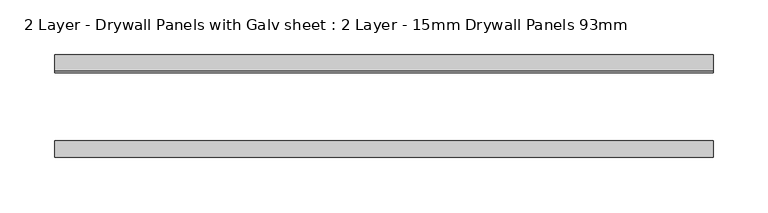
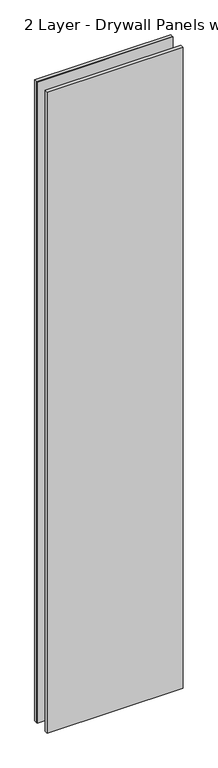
"""IFC4 building model written with IfcOpenShell, lengths in millimetres: plate geometry, 2 Layer - Drywall Panels with Galv sheet : 2 Layer - 15mm Drywall Panels 93mm."""

import ifcopenshell
import ifcopenshell.guid

model = None  # the IFC model being written
_history = None  # IfcOwnerHistory: only IFC2X3 demands one
_inside = {}  # id of a spatial element -> (the spatial element, [elements in it])
_under = {}  # id of a project, library or spatial element -> (it, [spatial elements below it])
_declared = {}  # id of a project -> (the project, [libraries it declares])
_typed = {}  # id of a type object -> (the type object, [elements of that type])
_made_of = {}  # id of a material, layer set ... -> (it, [elements and type objects made of it])


def new_model(schema):
    """Start an empty IFC model of exactly this schema.

    Asked for "IFC4X3", IfcOpenShell would pick the latest addendum, in which some entities
    have other attributes; the version numbers below select the first issue.
    IFC2X3 requires an IfcOwnerHistory on every rooted entity: one is made here for all.
    """
    global model, _history
    if schema == "IFC4X3":
        model = ifcopenshell.file(schema_version=(4, 3, 0, 0))
    else:
        model = ifcopenshell.file(schema=schema)
    _inside.clear()
    _under.clear()
    _declared.clear()
    _typed.clear()
    _made_of.clear()
    _history = None
    if model.schema == "IFC2X3":
        org = make("IfcOrganization", Name="unknown")
        user = make(
            "IfcPersonAndOrganization",
            ThePerson=make("IfcPerson", FamilyName="unknown"),
            TheOrganization=org,
        )
        app = make(
            "IfcApplication",
            ApplicationDeveloper=org,
            Version="unknown",
            ApplicationFullName="unknown",
            ApplicationIdentifier="unknown",
        )
        _history = make(
            "IfcOwnerHistory",
            OwningUser=user,
            OwningApplication=app,
            ChangeAction="ADDED",
            CreationDate=0,
        )
    return model


def make(cls, **values):
    """One entity of the class cls with the attributes given. An attribute that is None is left unset."""
    return model.create_entity(
        cls, **{name: value for name, value in values.items() if value is not None}
    )


def rooted(cls, **values):
    """An entity with a GlobalId (a new one), such as an element, a storey or a relation."""
    return make(cls, GlobalId=ifcopenshell.guid.new(), OwnerHistory=_history, **values)


def si_unit(unit_type, name, prefix=None):
    """IfcSIUnit, for example si_unit("LENGTHUNIT", "METRE", prefix="MILLI")."""
    return make("IfcSIUnit", UnitType=unit_type, Prefix=prefix, Name=name)


def assignment(units):
    """IfcUnitAssignment: the units of a project."""
    return None if units is None else make("IfcUnitAssignment", Units=units)


def point(xyz):
    """IfcCartesianPoint."""
    return None if xyz is None else make("IfcCartesianPoint", Coordinates=xyz)


def direction(xyz):
    """IfcDirection."""
    return None if xyz is None else make("IfcDirection", DirectionRatios=xyz)


def frame(location, z_axis=None, x_axis=None):
    """IfcAxis2Placement3D, a coordinate frame: its origin and axes. An axis left out is left unset."""
    return make(
        "IfcAxis2Placement3D",
        Location=point(location),
        Axis=direction(z_axis),
        RefDirection=direction(x_axis),
    )


def origin():
    """The frame at (0, 0, 0) with its axes left unset."""
    return frame((0.0, 0.0, 0.0))


def origin_with_axes():
    """The frame at (0, 0, 0) with the z axis (0, 0, 1) and the x axis (1, 0, 0) written out."""
    return frame((0.0, 0.0, 0.0), z_axis=(0.0, 0.0, 1.0), x_axis=(1.0, 0.0, 0.0))


def place(relative_to, where):
    """IfcLocalPlacement: puts the frame where relative to a parent placement (None: the world)."""
    return make(
        "IfcLocalPlacement", PlacementRelTo=relative_to, RelativePlacement=where
    )


def context(
    kind, dimensions, precision=None, world=None, true_north=None, identifier=None
):
    """IfcGeometricRepresentationContext, for example the 3D "Model" context."""
    return make(
        "IfcGeometricRepresentationContext",
        ContextIdentifier=identifier,
        ContextType=kind,
        CoordinateSpaceDimension=dimensions,
        Precision=precision,
        WorldCoordinateSystem=world,
        TrueNorth=true_north,
    )


def project(units=None, contexts=None):
    """IfcProject with its units and contexts."""
    return rooted(
        "IfcProject",
        Name="project",
        RepresentationContexts=contexts,
        UnitsInContext=assignment(units),
    )


def spatial(cls, under=None, at=None, **own):
    """A site, building, storey or space (cls), placed at a placement, below another one or the project."""
    s = rooted(cls, ObjectPlacement=at, **own)
    if under is not None:
        _under.setdefault(under.id(), (under, []))[1].append(s)
    return s


def polyline(points):
    """IfcPolyline through the points."""
    return make("IfcPolyline", Points=[point(p) for p in points])


def outline(outer, holes=None, kind="AREA"):
    """IfcArbitraryClosedProfileDef: a profile drawn as a closed curve; with holes, ...WithVoids."""
    if holes is None:
        return make("IfcArbitraryClosedProfileDef", ProfileType=kind, OuterCurve=outer)
    return make(
        "IfcArbitraryProfileDefWithVoids",
        ProfileType=kind,
        OuterCurve=outer,
        InnerCurves=holes,
    )


def extrude(swept, where, along, depth):
    """IfcExtrudedAreaSolid: the profile swept, set in the frame where, extruded along a direction by depth."""
    return make(
        "IfcExtrudedAreaSolid",
        SweptArea=swept,
        Position=where,
        ExtrudedDirection=direction(along),
        Depth=depth,
    )


def shape(context_of_items, identifier, shape_type, items):
    """IfcShapeRepresentation: the items that make up one representation, for example the "Body"."""
    return make(
        "IfcShapeRepresentation",
        ContextOfItems=context_of_items,
        RepresentationIdentifier=identifier,
        RepresentationType=shape_type,
        Items=items,
    )


def source(mapping_origin, context_of_items, identifier, shape_type, items):
    """IfcRepresentationMap: a shape defined once, which mapped items show again and again."""
    return make(
        "IfcRepresentationMap",
        MappingOrigin=mapping_origin,
        MappedRepresentation=shape(context_of_items, identifier, shape_type, items),
    )


def transform(
    local_origin,
    x_axis=None,
    y_axis=None,
    z_axis=None,
    scale=None,
    scale2=None,
    scale3=None,
    uniform=True,
):
    """IfcCartesianTransformationOperator3D, or its non-uniform kind. x_axis, y_axis, z_axis: its Axis1, 2, 3."""
    if uniform:
        return make(
            "IfcCartesianTransformationOperator3D",
            Axis1=direction(x_axis),
            Axis2=direction(y_axis),
            LocalOrigin=point(local_origin),
            Scale=scale,
            Axis3=direction(z_axis),
        )
    return make(
        "IfcCartesianTransformationOperator3DnonUniform",
        Axis1=direction(x_axis),
        Axis2=direction(y_axis),
        LocalOrigin=point(local_origin),
        Scale=scale,
        Axis3=direction(z_axis),
        Scale2=scale2,
        Scale3=scale3,
    )


def mapped(mapping_source, mapping_target):
    """IfcMappedItem: shows the shape of a source again, moved by a transform."""
    return make(
        "IfcMappedItem", MappingSource=mapping_source, MappingTarget=mapping_target
    )


def made_of(thing, what):
    """Note that an element or type object is made of a material, layer set ...; save() writes the relation."""
    if what is not None:
        _made_of.setdefault(what.id(), (what, []))[1].append(thing)
    return thing


def element(
    cls,
    number,
    at=None,
    inside=None,
    cuts=None,
    type_object=None,
    material=None,
    context=None,
    identifier="Body",
    shape_type=None,
    held_by="IfcProductDefinitionShape",
    body=None,
    shapes=None,
    **own,
):
    """One element of the class cls, such as IfcWall. Its Tag is "e" and its number.

    at: its placement. inside: the storey or other place that contains it. cuts: it is an
    opening in that element (IfcRelVoidsElement). A single representation is given by context,
    identifier, shape_type and body (its items); several are given by shapes. held_by: the class
    of the entity that holds the representations. save() writes the other relations.
    """
    e = rooted(cls, Tag="e%d" % number, ObjectPlacement=at, **own)
    if body is not None:
        shapes = [shape(context, identifier, shape_type, body)]
    if shapes is not None:
        e.Representation = make(held_by, Representations=shapes)
    if inside is not None:
        _inside.setdefault(inside.id(), (inside, []))[1].append(e)
    if cuts is not None:
        rooted(
            "IfcRelVoidsElement", RelatingBuildingElement=cuts, RelatedOpeningElement=e
        )
    if type_object is not None:
        _typed.setdefault(type_object.id(), (type_object, []))[1].append(e)
    return made_of(e, material)


def aggregate(whole, parts):
    """IfcRelAggregates: a whole, such as a stair, and the parts it consists of."""
    return rooted("IfcRelAggregates", RelatingObject=whole, RelatedObjects=parts)


def save(model, path):
    """Write the relations noted so far, then the file.

    IfcRelAggregates (storeys below a building ...), IfcRelContainedInSpatialStructure (elements
    in a storey), IfcRelDefinesByType, IfcRelAssociatesMaterial and IfcRelDeclares: one each for
    every whole, place, type object, material and project.
    """
    for whole, parts in _under.values():
        aggregate(whole, parts)
    for where, things in _inside.values():
        rooted(
            "IfcRelContainedInSpatialStructure",
            RelatedElements=things,
            RelatingStructure=where,
        )
    for kind, things in _typed.values():
        rooted("IfcRelDefinesByType", RelatedObjects=things, RelatingType=kind)
    for what, things in _made_of.values():
        rooted("IfcRelAssociatesMaterial", RelatedObjects=things, RelatingMaterial=what)
    for by, libraries in _declared.values():
        rooted("IfcRelDeclares", RelatingContext=by, RelatedDefinitions=libraries)
    model.write(path)


def plate_2_layer_drywall_panels_with_galv_sheet_2_layer_15mm_8fcf15e8(model_context):
    return source(origin(), model_context, "Body", "SweptSolid", [
        extrude(outline(polyline([(299.2000002, 31.5), (299.2000002, 30.5), (-299.2000002, 30.5), (-299.2000002, 31.5), (299.2000002, 31.5)])), origin_with_axes(), (0.0, 0.0, 1.0), 2979.4),
        extrude(outline(polyline([(299.2000002, 31.5), (-299.2000002, 31.5), (-299.2000002, 46.5), (299.2000002, 46.5), (299.2000002, 31.5)])), origin_with_axes(), (0.0, 0.0, 1.0), 2979.4),
        extrude(outline(polyline([(299.2000002, -31.5), (299.2000002, -46.5), (-299.2000002, -46.5), (-299.2000002, -31.5), (299.2000002, -31.5)])), origin_with_axes(), (0.0, 0.0, 1.0), 2979.4),
    ])


if __name__ == "__main__":
    model = new_model("IFC4")
    model_context = context("Model", 3, world=origin())
    ifc_project = project(units=[si_unit("LENGTHUNIT", "METRE", prefix="MILLI")], contexts=[model_context])
    site = spatial("IfcSite", under=ifc_project)
    building = spatial("IfcBuilding", under=site)
    placement = place(None, origin())
    plate_2_layer_drywall_panels_with_galv_sheet_2_layer_15mm_shape = plate_2_layer_drywall_panels_with_galv_sheet_2_layer_15mm_8fcf15e8(model_context)
    element("IfcPlate", 1, ObjectType="2 Layer - Drywall Panels with Galv sheet : 2 Layer - 15mm Drywall Panels 93mm", at=placement, inside=building, context=model_context, shape_type="MappedRepresentation", body=[
        mapped(plate_2_layer_drywall_panels_with_galv_sheet_2_layer_15mm_shape, transform((0.0, 0.0, 0.0), x_axis=(1.0, 0.0, 0.0), y_axis=(0.0, 1.0, 0.0), z_axis=(0.0, 0.0, 1.0))),
    ])
    save(model, "model.ifc")
